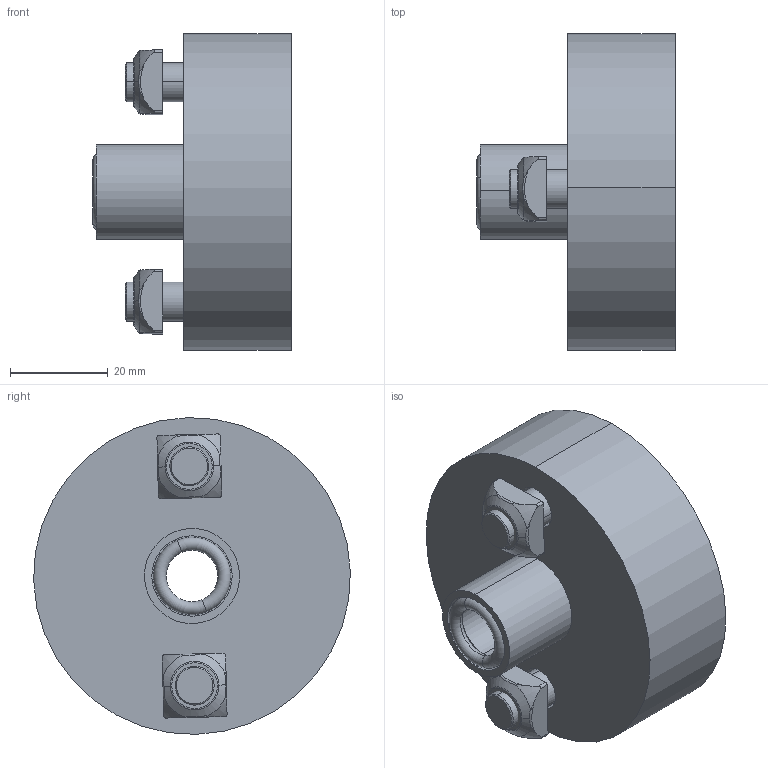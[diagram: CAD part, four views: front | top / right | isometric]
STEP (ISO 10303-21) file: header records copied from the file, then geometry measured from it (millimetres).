
FILE_DESCRIPTION (( 'STEP AP214' ), '1' );
FILE_NAME ('900.400.103.STEP', '2015-02-23T15:43:03', ( '' ), ( '' ), 'SwSTEP 2.0', 'SolidWorks 2012', '' );
FILE_SCHEMA (( 'AUTOMOTIVE_DESIGN' ));
Length unit declared in the file: millimetre
Products named in the file (5): 084.301.000 VITI ALUSIC_084.301.004; o-rings series a_iso_O-ring 10.6x2.65-A-ISO 3601-1; 900.300.002; 084.302.000 DADI ALUSIC 13x13-1_084.302.004; 900.400.103
Assembly tree (6 placements, depth 2):
  900.400.103
    900.300.002
    o-rings series a_iso_O-ring 10.6x2.65-A-ISO 3601-1
    084.301.000 VITI ALUSIC_084.301.004  x2
    084.302.000 DADI ALUSIC 13x13-1_084.302.004  x2
Bounding box: 40.65 x 64.98 x 64.98 mm (x, y, z)
Volume: 71486.3 mm3; surface area: 19076.4 mm2
Topology: 6 solids, 6 shells, 114 faces, 268 edges, 172 vertices
Faces by surface type: cylinder 38, plane 38, torus 20, cone 10, bspline 8
Entity records: 2648 total; most frequent: CARTESIAN_POINT 745, DIRECTION 366, ORIENTED_EDGE 332, EDGE_CURVE 166, AXIS2_PLACEMENT_3D 153, VERTEX_POINT 106, EDGE_LOOP 86, CIRCLE 76
